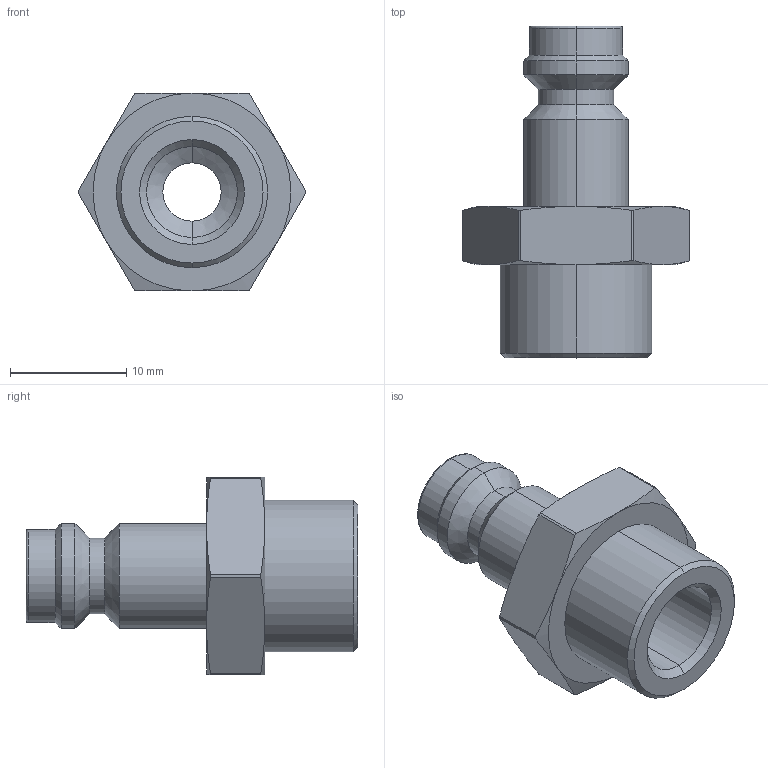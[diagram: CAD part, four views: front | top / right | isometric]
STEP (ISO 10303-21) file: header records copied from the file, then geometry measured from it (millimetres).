
FILE_DESCRIPTION (( 'STEP AP214' ), '1' );
FILE_NAME ('au_220_0.STEP', '2016-10-14T15:29:04', ( '' ), ( '' ), 'SwSTEP 2.0', 'SolidWorks 2016', '' );
FILE_SCHEMA (( 'AUTOMOTIVE_DESIGN' ));
Length unit declared in the file: millimetre
Products named in the file (1): au_220_0
Bounding box: 19.5 x 28.5 x 17 mm (x, y, z)
Volume: 2317.5 mm3; surface area: 2002.9 mm2
Topology: 1 solids, 1 shells, 56 faces, 122 edges, 70 vertices
Faces by surface type: cone 24, cylinder 20, plane 10, torus 2
Entity records: 1606 total; most frequent: CARTESIAN_POINT 329, DIRECTION 272, ORIENTED_EDGE 244, EDGE_CURVE 122, AXIS2_PLACEMENT_3D 117, VERTEX_POINT 70, CIRCLE 60, EDGE_LOOP 60
